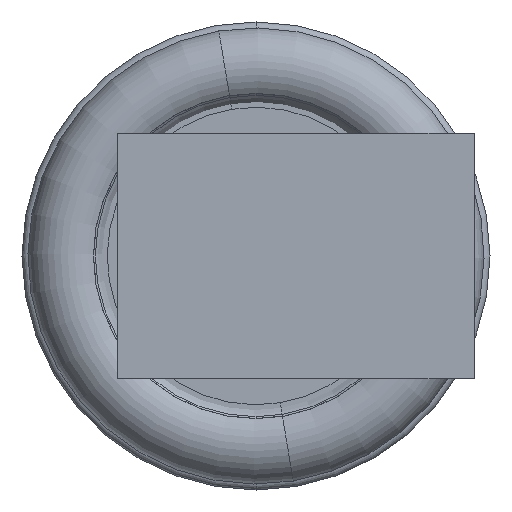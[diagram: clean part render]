
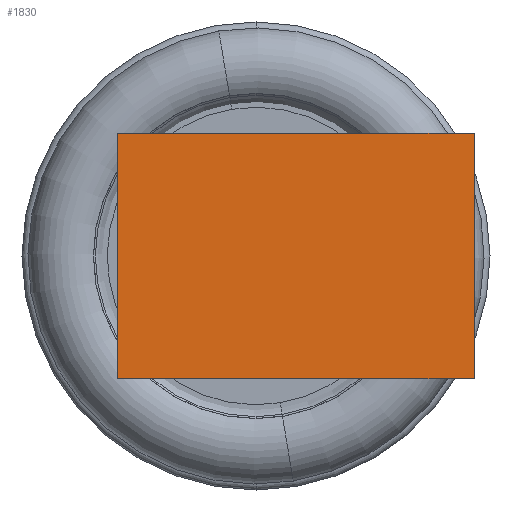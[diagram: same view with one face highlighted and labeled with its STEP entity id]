
A CAD part, left-side view. The second image highlights one B-rep face of the part: STEP entity #1830.
In plain terms, the highlighted planar face has unit normal (-1, 0, 0).
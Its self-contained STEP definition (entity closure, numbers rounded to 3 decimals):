
#150 = EDGE_CURVE ( 'NONE', #1967, #2656, #944, .T. ) ;
#179 = DIRECTION ( 'NONE',  ( 0., 1., 0. ) ) ;
#265 = VECTOR ( 'NONE', #412, 1000. ) ;
#403 = ORIENTED_EDGE ( 'NONE', *, *, #150, .F. ) ;
#412 = DIRECTION ( 'NONE',  ( 0., 0., -1. ) ) ;
#417 = LINE ( 'NONE', #1765, #653 ) ;
#455 = EDGE_LOOP ( 'NONE', ( #790, #403, #2674, #2579 ) ) ;
#472 = CARTESIAN_POINT ( 'NONE',  ( -124.996, 3.5, 3.1 ) ) ;
#535 = CARTESIAN_POINT ( 'NONE',  ( -124.996, -12.5, -3.1 ) ) ;
#619 = CARTESIAN_POINT ( 'NONE',  ( -124.996, 3.5, -12.5 ) ) ;
#653 = VECTOR ( 'NONE', #179, 1000. ) ;
#709 = CARTESIAN_POINT ( 'NONE',  ( -124.996, -5.5, 3.1 ) ) ;
#749 = DIRECTION ( 'NONE',  ( 0., 0., 1. ) ) ;
#789 = CARTESIAN_POINT ( 'NONE',  ( -124.996, -5.5, -3.1 ) ) ;
#790 = ORIENTED_EDGE ( 'NONE', *, *, #1326, .T. ) ;
#873 = LINE ( 'NONE', #619, #2611 ) ;
#944 = LINE ( 'NONE', #535, #1267 ) ;
#969 = EDGE_CURVE ( 'NONE', #1714, #2242, #417, .T. ) ;
#988 = DIRECTION ( 'NONE',  ( 0., 1., 0. ) ) ;
#991 = EDGE_CURVE ( 'NONE', #1714, #1967, #1262, .T. ) ;
#1262 = LINE ( 'NONE', #1306, #265 ) ;
#1267 = VECTOR ( 'NONE', #988, 1000. ) ;
#1306 = CARTESIAN_POINT ( 'NONE',  ( -124.996, -5.5, -12.5 ) ) ;
#1326 = EDGE_CURVE ( 'NONE', #2242, #2656, #873, .T. ) ;
#1714 = VERTEX_POINT ( 'NONE', #709 ) ;
#1760 = DIRECTION ( 'NONE',  ( 0., 0., -1. ) ) ;
#1765 = CARTESIAN_POINT ( 'NONE',  ( -124.996, -12.5, 3.1 ) ) ;
#1767 = AXIS2_PLACEMENT_3D ( 'NONE', #2307, #2754, #749 ) ;
#1830 = ADVANCED_FACE ( 'NONE', ( #2052 ), #2561, .T. ) ;
#1967 = VERTEX_POINT ( 'NONE', #789 ) ;
#2052 = FACE_OUTER_BOUND ( 'NONE', #455, .T. ) ;
#2242 = VERTEX_POINT ( 'NONE', #472 ) ;
#2307 = CARTESIAN_POINT ( 'NONE',  ( -124.996, -12.5, 0. ) ) ;
#2561 = PLANE ( 'NONE',  #1767 ) ;
#2579 = ORIENTED_EDGE ( 'NONE', *, *, #969, .T. ) ;
#2611 = VECTOR ( 'NONE', #1760, 1000. ) ;
#2656 = VERTEX_POINT ( 'NONE', #2702 ) ;
#2674 = ORIENTED_EDGE ( 'NONE', *, *, #991, .F. ) ;
#2702 = CARTESIAN_POINT ( 'NONE',  ( -124.996, 3.5, -3.1 ) ) ;
#2754 = DIRECTION ( 'NONE',  ( -1., 0., 0. ) ) ;
